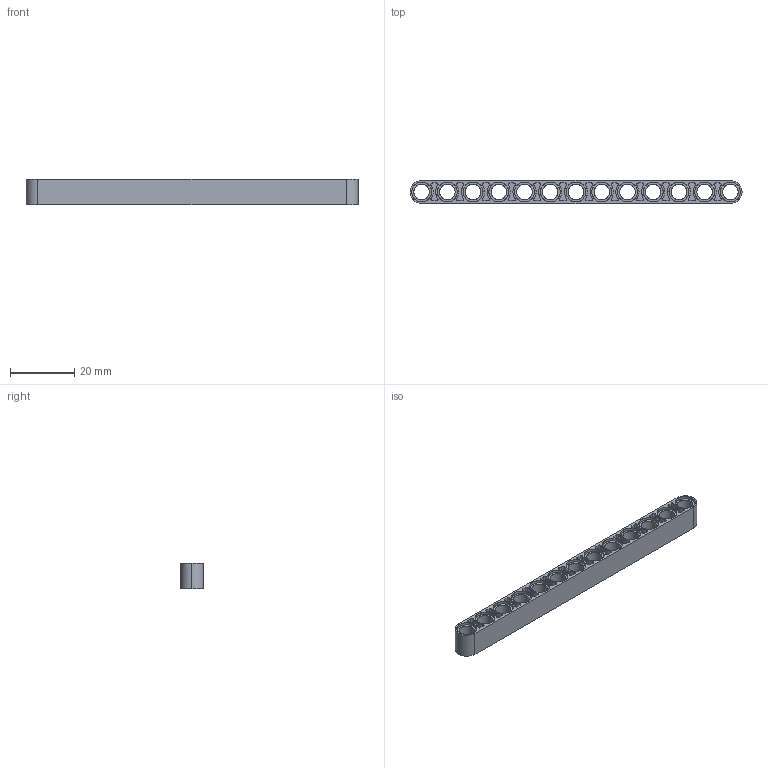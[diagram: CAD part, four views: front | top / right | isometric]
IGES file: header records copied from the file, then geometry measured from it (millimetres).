
Start section: C
Global section: file name: Ye_4522935_AVV.iges; native system: By Siemens PLM Incorporated; preprocessor: XPlus GENERIC/IGES 26.1.183; author: Author; organization: Title; date: 20250722.000933; units: millimetre
Bounding box: 103.2 x 7.2 x 8 mm (x, y, z)
Surface area: 5514.1 mm2 (no closed solid volume)
Topology: 0 solids, 0 shells, 361 faces, 2010 edges, 2010 vertices
Faces by surface type: bspline 361
